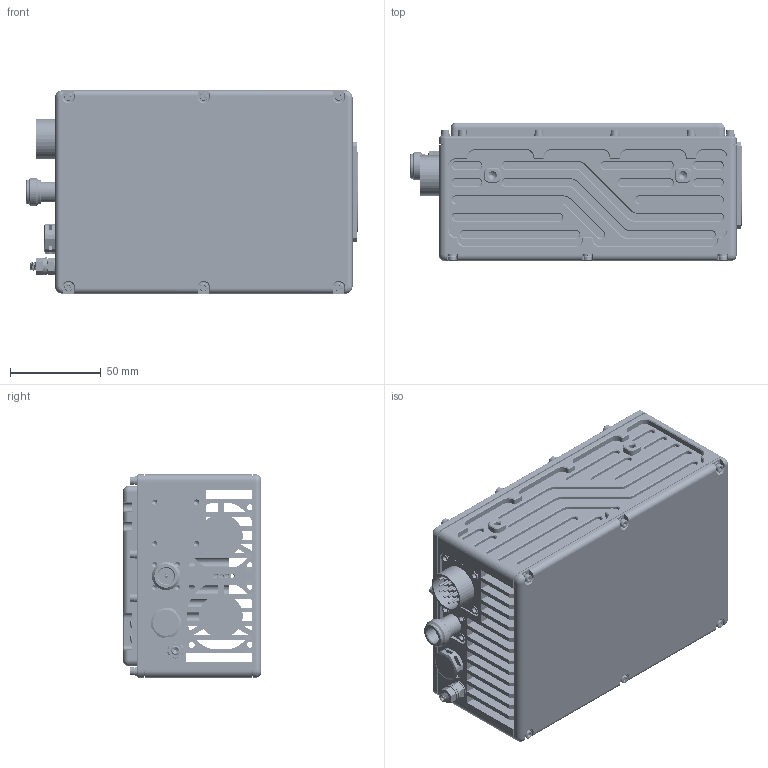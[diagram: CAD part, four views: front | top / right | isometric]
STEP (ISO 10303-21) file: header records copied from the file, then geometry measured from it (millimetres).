
FILE_DESCRIPTION (( 'STEP AP214' ), '1' );
FILE_NAME ('ALX_BUC_Assembly-FILLED.STEP', '2022-06-26T19:06:20', ( '' ), ( '' ), 'SwSTEP 2.0', 'SolidWorks 2019', '' );
FILE_SCHEMA (( 'AUTOMOTIVE_DESIGN' ));
Length unit declared in the file: millimetre
Products named in the file (26): ALX_BUC_Assembly-FILLED; vent-Amphenol-ps1xxx; 94150A340_316 Stainless Steel Hex Nut_94150A340; Screw_M3x8_92290A113_316_SS_SHCS_92290A113; ALX_BUC_Chassis; MOUNT BRACKET, FANS, HI-KU; Washer_Split_Lock_M3; Fan_9WL0412P3J001; Amphenol-PT02E-14-19P; O-RING-FLANGE_O-RING-2.5x40; 92029A221_Super-Corrosion-Resistant Cup-Point Set Screw_92029A221; ALX_BUC_Cover_Bottom; Label-1x2in; SCREW_M2.5x10_92290A060_316_SS_SHCS_92290A060; ALX_BUC_Flange_PCB; Washer_Flat_M2.5_98689A111_98689A111; ALX_BUC_Fans_w_frame_ASSY; lightpipe_red; Amphenol-172117; Washer_Flat_M5-93475A240_93475A240; ALX_BUC_Flange_ASSY; Washer_Lock_M5; Washer_Split_Lock_M2.5; Dowel_Pin_DIA-2.0mm; ALX_BUC_Cover_Top; ALX_BUC_Flange
Assembly tree (95 placements, depth 3):
  ALX_BUC_Assembly-FILLED
    ALX_BUC_Chassis
    ALX_BUC_Flange_ASSY
      ALX_BUC_Flange
      ALX_BUC_Flange_PCB
    ALX_BUC_Cover_Bottom
    ALX_BUC_Cover_Top
    Amphenol-172117
    Amphenol-PT02E-14-19P
    vent-Amphenol-ps1xxx
    ALX_BUC_Fans_w_frame_ASSY
      MOUNT BRACKET, FANS, HI-KU
      Fan_9WL0412P3J001  x2
    O-RING-FLANGE_O-RING-2.5x40  x2
    lightpipe_red  x2
    Washer_Split_Lock_M3  x4
    Washer_Split_Lock_M2.5  x26
    Screw_M3x8_92290A113_316_SS_SHCS_92290A113  x4
    SCREW_M2.5x10_92290A060_316_SS_SHCS_92290A060  x18
    Dowel_Pin_DIA-2.0mm
    Washer_Flat_M2.5_98689A111_98689A111  x18
    92029A221_Super-Corrosion-Resistant Cup-Point Set Screw_92029A221
    94150A340_316 Stainless Steel Hex Nut_94150A340  x2
    Washer_Flat_M5-93475A240_93475A240
    Washer_Lock_M5  x2
    Label-1x2in
Bounding box: 182.9 x 76.1 x 112 mm (x, y, z)
Volume: 578259.5 mm3; surface area: 338290.9 mm2
Topology: 95 solids, 95 shells, 5034 faces, 13124 edges, 8381 vertices
Faces by surface type: cylinder 2913, plane 1321, cone 707, bspline 65, torus 18, sphere 10
Entity records: 93406 total; most frequent: CARTESIAN_POINT 23766, DIRECTION 12313, ORIENTED_EDGE 12034, EDGE_CURVE 6017, AXIS2_PLACEMENT_3D 4438, VERTEX_POINT 3824, VECTOR 3437, LINE 3437
